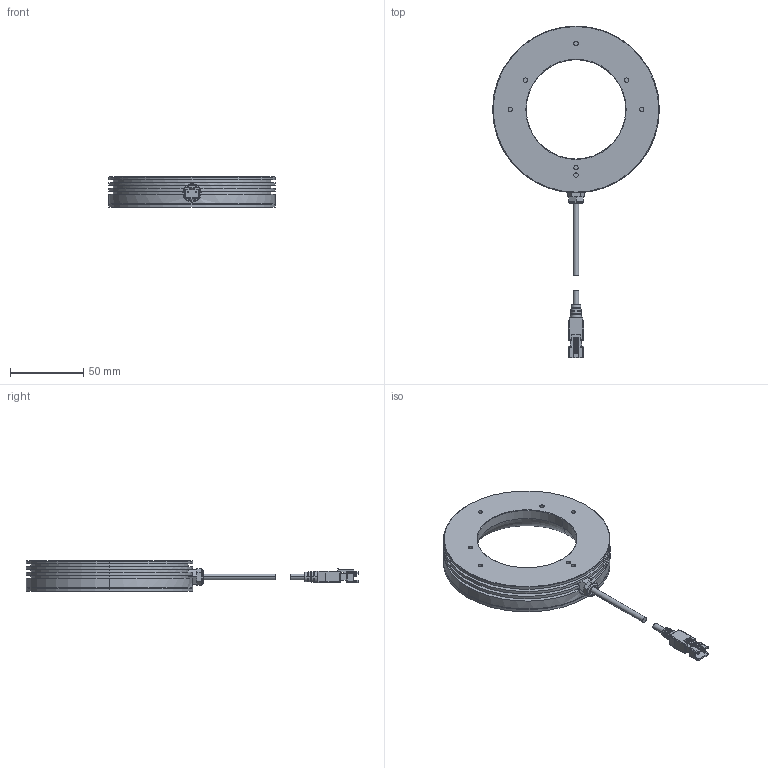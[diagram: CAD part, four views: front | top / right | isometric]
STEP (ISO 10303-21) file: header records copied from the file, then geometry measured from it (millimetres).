
FILE_DESCRIPTION(('STEP AP214'),'1');
FILE_NAME('VL-MUL110.stp','2022-09-22T08:45:31',(' '),(' '),'Spatial InterOp 3D',' ',' ');
FILE_SCHEMA(('AUTOMOTIVE_DESIGN { 1 0 10303 214 1 1 1 1 }'));
Length unit declared in the file: metre
Products named in the file (3): VL-MUL110; Component1; Component2
Assembly tree (2 placements, depth 2):
  VL-MUL110
    Component1
    Component2
Bounding box: 114.2 x 227.3 x 21 mm (x, y, z)
Volume: 102999.3 mm3; surface area: 49256.3 mm2
Topology: 2 solids, 6 shells, 456 faces, 1151 edges, 726 vertices
Faces by surface type: plane 237, cylinder 161, cone 34, torus 12, sphere 8, bspline 4
Entity records: 14831 total; most frequent: CARTESIAN_POINT 3547, DIRECTION 2429, ORIENTED_EDGE 2286, EDGE_CURVE 1143, AXIS2_PLACEMENT_3D 855, VERTEX_POINT 726, LINE 719, VECTOR 719
